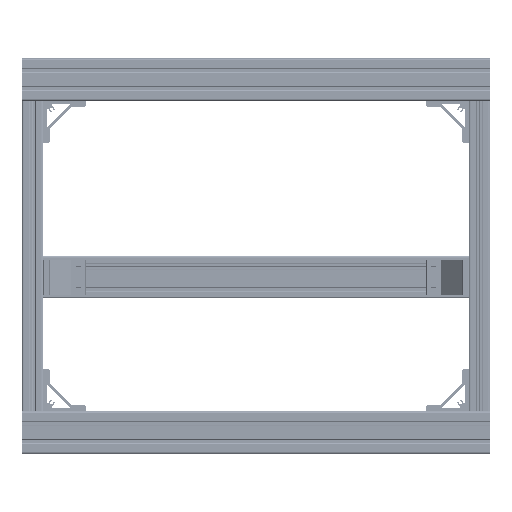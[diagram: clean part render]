
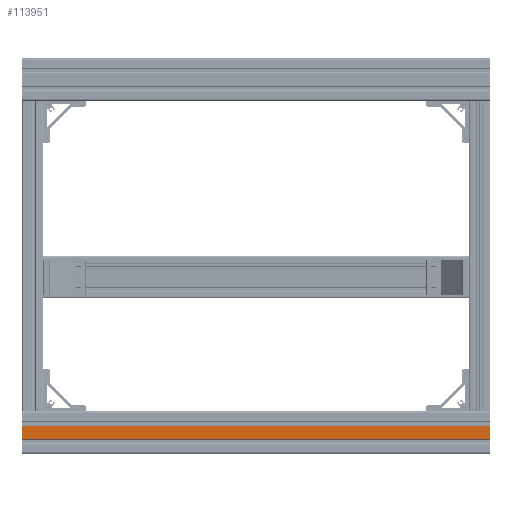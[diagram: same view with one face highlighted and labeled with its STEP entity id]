
A CAD part, left-side view. The second image highlights one B-rep face of the part: STEP entity #113951.
In plain terms, the highlighted planar face has unit normal (-1, 0, 0).
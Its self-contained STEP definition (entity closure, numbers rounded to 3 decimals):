
#4429 = VECTOR ( 'NONE', #364044, 1000. ) ;
#15772 = VECTOR ( 'NONE', #303605, 1000. ) ;
#27232 = LINE ( 'NONE', #449846, #15772 ) ;
#28799 = EDGE_CURVE ( 'NONE', #80845, #392358, #102061, .T. ) ;
#49086 = ORIENTED_EDGE ( 'NONE', *, *, #28799, .T. ) ;
#77145 = DIRECTION ( 'NONE',  ( -1., 0., 0. ) ) ;
#80845 = VERTEX_POINT ( 'NONE', #408861 ) ;
#85055 = CARTESIAN_POINT ( 'NONE',  ( -352.796, -88.01, -339.1 ) ) ;
#87803 = AXIS2_PLACEMENT_3D ( 'NONE', #297580, #77145, #334542 ) ;
#97101 = ORIENTED_EDGE ( 'NONE', *, *, #297599, .T. ) ;
#97962 = VECTOR ( 'NONE', #374207, 1000. ) ;
#102061 = LINE ( 'NONE', #142013, #4429 ) ;
#113951 = ADVANCED_FACE ( 'NONE', ( #120676 ), #332888, .T. ) ;
#118222 = ORIENTED_EDGE ( 'NONE', *, *, #272635, .F. ) ;
#120676 = FACE_OUTER_BOUND ( 'NONE', #209527, .T. ) ;
#141574 = CARTESIAN_POINT ( 'NONE',  ( -352.796, -751.01, -339.1 ) ) ;
#142013 = CARTESIAN_POINT ( 'NONE',  ( -352.796, -751.01, -319.9 ) ) ;
#162328 = DIRECTION ( 'NONE',  ( 0., 1., 0. ) ) ;
#174932 = LINE ( 'NONE', #199345, #261261 ) ;
#199345 = CARTESIAN_POINT ( 'NONE',  ( -352.796, -751.01, -339.1 ) ) ;
#209527 = EDGE_LOOP ( 'NONE', ( #118222, #235199, #97101, #49086 ) ) ;
#235199 = ORIENTED_EDGE ( 'NONE', *, *, #422821, .F. ) ;
#261261 = VECTOR ( 'NONE', #162328, 1000. ) ;
#266271 = CARTESIAN_POINT ( 'NONE',  ( -352.796, -88.01, -319.9 ) ) ;
#272635 = EDGE_CURVE ( 'NONE', #316862, #392358, #391565, .T. ) ;
#297580 = CARTESIAN_POINT ( 'NONE',  ( -352.796, -751.01, -339.1 ) ) ;
#297599 = EDGE_CURVE ( 'NONE', #356037, #80845, #27232, .T. ) ;
#303605 = DIRECTION ( 'NONE',  ( 0., 0., 1. ) ) ;
#316862 = VERTEX_POINT ( 'NONE', #85055 ) ;
#332888 = PLANE ( 'NONE',  #87803 ) ;
#334542 = DIRECTION ( 'NONE',  ( 0., 0., 1. ) ) ;
#337206 = CARTESIAN_POINT ( 'NONE',  ( -352.796, -88.01, -339.1 ) ) ;
#356037 = VERTEX_POINT ( 'NONE', #141574 ) ;
#364044 = DIRECTION ( 'NONE',  ( 0., 1., 0. ) ) ;
#374207 = DIRECTION ( 'NONE',  ( 0., 0., 1. ) ) ;
#391565 = LINE ( 'NONE', #337206, #97962 ) ;
#392358 = VERTEX_POINT ( 'NONE', #266271 ) ;
#408861 = CARTESIAN_POINT ( 'NONE',  ( -352.796, -751.01, -319.9 ) ) ;
#422821 = EDGE_CURVE ( 'NONE', #356037, #316862, #174932, .T. ) ;
#449846 = CARTESIAN_POINT ( 'NONE',  ( -352.796, -751.01, -339.1 ) ) ;
